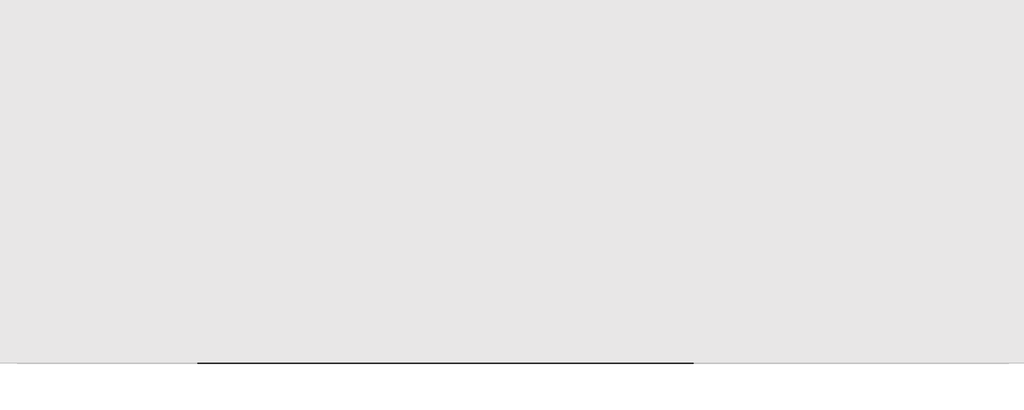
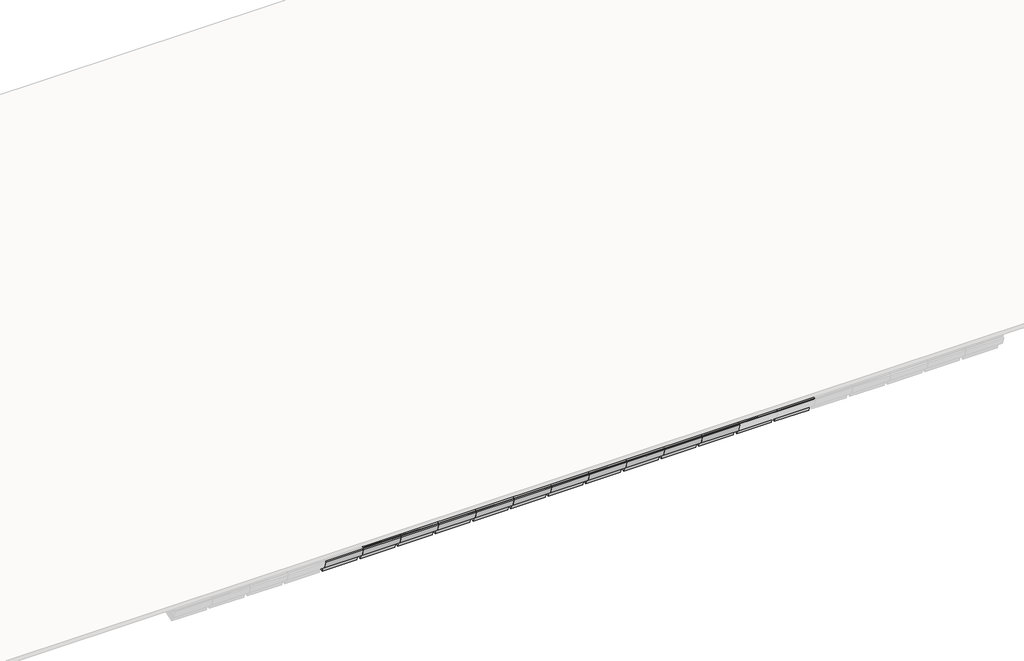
# One storey, part 24 of 57: 75 members, 49 plates.
"""IFC4 building model written with IfcOpenShell, lengths in millimetres."""

from ifc_helpers import new_model, si_unit, origin, place, context, project, spatial, transform, mapped, element, save
from components import rectangular_mullion_59984080, rectangular_mullion_e3e5c75d, rectangular_mullion_883ae41b, rectangular_mullion_caibro_e4384bba, empty_system_panel_vazio_178faf58, empty_system_panel_vazio_2c78850d

model = new_model("IFC4")

# Units and contexts
model_context = context("Model", 3, world=origin())
ifc_project = project(units=[si_unit("LENGTHUNIT", "METRE", prefix="MILLI")], contexts=[model_context])

# Site, building, storey
site = spatial("IfcSite", under=ifc_project)
building = spatial("IfcBuilding", under=site)
storey = spatial("IfcBuildingStorey", under=building, Name="Nível 2", Elevation=4100.0)

# Members
placement = place(None, origin())
rectangular_mullion_shape = rectangular_mullion_59984080(model_context)
element("IfcMember", 1, ObjectType="Rectangular Mullion : Ripa", at=placement, inside=storey, context=model_context, shape_type="MappedRepresentation", body=[
    mapped(rectangular_mullion_shape, transform((21479.4876142, 7422.2287521, 3376.7178042), x_axis=(0.0, 0.9578262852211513, 0.2873478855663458), y_axis=(0.0, 0.2873478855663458, -0.9578262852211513), z_axis=(-1.0, 0.0, 0.0))),
])
element("IfcMember", 2, ObjectType="Rectangular Mullion : Ripa", at=placement, inside=storey, context=model_context, shape_type="MappedRepresentation", body=[
    mapped(rectangular_mullion_shape, transform((22076.5423706, 7422.2287521, 3376.7178042), x_axis=(0.0, 0.9578262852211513, 0.2873478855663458), y_axis=(0.0, 0.2873478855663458, -0.9578262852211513), z_axis=(-1.0, 0.0, 0.0))),
])
element("IfcMember", 3, ObjectType="Rectangular Mullion : Ripa", at=placement, inside=storey, context=model_context, shape_type="MappedRepresentation", body=[
    mapped(rectangular_mullion_shape, transform((22673.597127, 7422.2287521, 3376.7178042), x_axis=(0.0, 0.9578262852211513, 0.2873478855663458), y_axis=(0.0, 0.2873478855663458, -0.9578262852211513), z_axis=(-1.0, 0.0, 0.0))),
])
element("IfcMember", 4, ObjectType="Rectangular Mullion : Ripa", at=placement, inside=storey, context=model_context, shape_type="MappedRepresentation", body=[
    mapped(rectangular_mullion_shape, transform((23270.6518835, 7422.2287521, 3376.7178042), x_axis=(0.0, 0.9578262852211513, 0.2873478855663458), y_axis=(0.0, 0.2873478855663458, -0.9578262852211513), z_axis=(-1.0, 0.0, 0.0))),
])
element("IfcMember", 5, ObjectType="Rectangular Mullion : Ripa", at=placement, inside=storey, context=model_context, shape_type="MappedRepresentation", body=[
    mapped(rectangular_mullion_shape, transform((23867.7066399, 7422.2287521, 3376.7178042), x_axis=(0.0, 0.9578262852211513, 0.2873478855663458), y_axis=(0.0, 0.2873478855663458, -0.9578262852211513), z_axis=(-1.0, 0.0, 0.0))),
])
element("IfcMember", 6, ObjectType="Rectangular Mullion : Ripa", at=placement, inside=storey, context=model_context, shape_type="MappedRepresentation", body=[
    mapped(rectangular_mullion_shape, transform((24464.7613963, 7422.2287521, 3376.7178042), x_axis=(0.0, 0.9578262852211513, 0.2873478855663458), y_axis=(0.0, 0.2873478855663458, -0.9578262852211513), z_axis=(-1.0, 0.0, 0.0))),
])
element("IfcMember", 7, ObjectType="Rectangular Mullion : Ripa", at=placement, inside=storey, context=model_context, shape_type="MappedRepresentation", body=[
    mapped(rectangular_mullion_shape, transform((25061.8161527, 7422.2287521, 3376.7178042), x_axis=(0.0, 0.9578262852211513, 0.2873478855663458), y_axis=(0.0, 0.2873478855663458, -0.9578262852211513), z_axis=(-1.0, 0.0, 0.0))),
])
element("IfcMember", 8, ObjectType="Rectangular Mullion : Ripa", at=placement, inside=storey, context=model_context, shape_type="MappedRepresentation", body=[
    mapped(rectangular_mullion_shape, transform((25658.8709092, 7422.2287521, 3376.7178042), x_axis=(0.0, 0.9578262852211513, 0.2873478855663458), y_axis=(0.0, 0.2873478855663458, -0.9578262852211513), z_axis=(-1.0, 0.0, 0.0))),
])
element("IfcMember", 9, ObjectType="Rectangular Mullion : Ripa", at=placement, inside=storey, context=model_context, shape_type="MappedRepresentation", body=[
    mapped(rectangular_mullion_shape, transform((26255.9256656, 7422.2287521, 3376.7178042), x_axis=(0.0, 0.9578262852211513, 0.2873478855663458), y_axis=(0.0, 0.2873478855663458, -0.9578262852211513), z_axis=(-1.0, 0.0, 0.0))),
])
element("IfcMember", 10, ObjectType="Rectangular Mullion : Ripa", at=placement, inside=storey, context=model_context, shape_type="MappedRepresentation", body=[
    mapped(rectangular_mullion_shape, transform((26852.980422, 7422.2287521, 3376.7178042), x_axis=(0.0, 0.9578262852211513, 0.2873478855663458), y_axis=(0.0, 0.2873478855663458, -0.9578262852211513), z_axis=(-1.0, 0.0, 0.0))),
])
element("IfcMember", 11, ObjectType="Rectangular Mullion : Ripa", at=placement, inside=storey, context=model_context, shape_type="MappedRepresentation", body=[
    mapped(rectangular_mullion_shape, transform((27450.0351784, 7422.2287521, 3376.7178042), x_axis=(0.0, 0.9578262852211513, 0.2873478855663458), y_axis=(0.0, 0.2873478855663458, -0.9578262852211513), z_axis=(-1.0, 0.0, 0.0))),
])
element("IfcMember", 12, ObjectType="Rectangular Mullion : Ripa", at=placement, inside=storey, context=model_context, shape_type="MappedRepresentation", body=[
    mapped(rectangular_mullion_shape, transform((28047.0899349, 7422.2287521, 3376.7178042), x_axis=(0.0, 0.9578262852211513, 0.2873478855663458), y_axis=(0.0, 0.2873478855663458, -0.9578262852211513), z_axis=(-1.0, 0.0, 0.0))),
])
element("IfcMember", 13, ObjectType="Rectangular Mullion : Ripa", at=placement, inside=storey, context=model_context, shape_type="MappedRepresentation", body=[
    mapped(rectangular_mullion_shape, transform((28644.1446913, 7422.2287521, 3376.7178042), x_axis=(0.0, 0.9578262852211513, 0.2873478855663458), y_axis=(0.0, 0.2873478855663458, -0.9578262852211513), z_axis=(-1.0, 0.0, 0.0))),
])
element("IfcMember", 14, ObjectType="Rectangular Mullion : Ripa", at=placement, inside=storey, context=model_context, shape_type="MappedRepresentation", body=[
    mapped(rectangular_mullion_shape, transform((21479.4876142, 7792.4060108, 3487.7709818), x_axis=(0.0, 0.9578262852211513, 0.2873478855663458), y_axis=(0.0, 0.2873478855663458, -0.9578262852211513), z_axis=(-1.0, 0.0, 0.0))),
])
element("IfcMember", 15, ObjectType="Rectangular Mullion : Ripa", at=placement, inside=storey, context=model_context, shape_type="MappedRepresentation", body=[
    mapped(rectangular_mullion_shape, transform((22076.5423706, 7792.4060108, 3487.7709818), x_axis=(0.0, 0.9578262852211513, 0.2873478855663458), y_axis=(0.0, 0.2873478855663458, -0.9578262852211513), z_axis=(-1.0, 0.0, 0.0))),
])
element("IfcMember", 16, ObjectType="Rectangular Mullion : Ripa", at=placement, inside=storey, context=model_context, shape_type="MappedRepresentation", body=[
    mapped(rectangular_mullion_shape, transform((22673.597127, 7792.4060108, 3487.7709818), x_axis=(0.0, 0.9578262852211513, 0.2873478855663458), y_axis=(0.0, 0.2873478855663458, -0.9578262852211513), z_axis=(-1.0, 0.0, 0.0))),
])
element("IfcMember", 17, ObjectType="Rectangular Mullion : Ripa", at=placement, inside=storey, context=model_context, shape_type="MappedRepresentation", body=[
    mapped(rectangular_mullion_shape, transform((23270.6518835, 7792.4060108, 3487.7709818), x_axis=(0.0, 0.9578262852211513, 0.2873478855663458), y_axis=(0.0, 0.2873478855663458, -0.9578262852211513), z_axis=(-1.0, 0.0, 0.0))),
])
element("IfcMember", 18, ObjectType="Rectangular Mullion : Ripa", at=placement, inside=storey, context=model_context, shape_type="MappedRepresentation", body=[
    mapped(rectangular_mullion_shape, transform((23867.7066399, 7792.4060108, 3487.7709818), x_axis=(0.0, 0.9578262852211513, 0.2873478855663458), y_axis=(0.0, 0.2873478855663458, -0.9578262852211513), z_axis=(-1.0, 0.0, 0.0))),
])
element("IfcMember", 19, ObjectType="Rectangular Mullion : Ripa", at=placement, inside=storey, context=model_context, shape_type="MappedRepresentation", body=[
    mapped(rectangular_mullion_shape, transform((24464.7613963, 7792.4060108, 3487.7709818), x_axis=(0.0, 0.9578262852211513, 0.2873478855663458), y_axis=(0.0, 0.2873478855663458, -0.9578262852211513), z_axis=(-1.0, 0.0, 0.0))),
])
element("IfcMember", 20, ObjectType="Rectangular Mullion : Ripa", at=placement, inside=storey, context=model_context, shape_type="MappedRepresentation", body=[
    mapped(rectangular_mullion_shape, transform((25061.8161527, 7792.4060108, 3487.7709818), x_axis=(0.0, 0.9578262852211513, 0.2873478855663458), y_axis=(0.0, 0.2873478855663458, -0.9578262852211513), z_axis=(-1.0, 0.0, 0.0))),
])
element("IfcMember", 21, ObjectType="Rectangular Mullion : Ripa", at=placement, inside=storey, context=model_context, shape_type="MappedRepresentation", body=[
    mapped(rectangular_mullion_shape, transform((25658.8709092, 7792.4060108, 3487.7709818), x_axis=(0.0, 0.9578262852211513, 0.2873478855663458), y_axis=(0.0, 0.2873478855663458, -0.9578262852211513), z_axis=(-1.0, 0.0, 0.0))),
])
element("IfcMember", 22, ObjectType="Rectangular Mullion : Ripa", at=placement, inside=storey, context=model_context, shape_type="MappedRepresentation", body=[
    mapped(rectangular_mullion_shape, transform((26255.9256656, 7792.4060108, 3487.7709818), x_axis=(0.0, 0.9578262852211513, 0.2873478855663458), y_axis=(0.0, 0.2873478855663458, -0.9578262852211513), z_axis=(-1.0, 0.0, 0.0))),
])
element("IfcMember", 23, ObjectType="Rectangular Mullion : Ripa", at=placement, inside=storey, context=model_context, shape_type="MappedRepresentation", body=[
    mapped(rectangular_mullion_shape, transform((26852.980422, 7792.4060108, 3487.7709818), x_axis=(0.0, 0.9578262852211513, 0.2873478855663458), y_axis=(0.0, 0.2873478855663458, -0.9578262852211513), z_axis=(-1.0, 0.0, 0.0))),
])
element("IfcMember", 24, ObjectType="Rectangular Mullion : Ripa", at=placement, inside=storey, context=model_context, shape_type="MappedRepresentation", body=[
    mapped(rectangular_mullion_shape, transform((27450.0351784, 7792.4060108, 3487.7709818), x_axis=(0.0, 0.9578262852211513, 0.2873478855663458), y_axis=(0.0, 0.2873478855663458, -0.9578262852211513), z_axis=(-1.0, 0.0, 0.0))),
])
element("IfcMember", 25, ObjectType="Rectangular Mullion : Ripa", at=placement, inside=storey, context=model_context, shape_type="MappedRepresentation", body=[
    mapped(rectangular_mullion_shape, transform((28047.0899349, 7792.4060108, 3487.7709818), x_axis=(0.0, 0.9578262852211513, 0.2873478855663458), y_axis=(0.0, 0.2873478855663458, -0.9578262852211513), z_axis=(-1.0, 0.0, 0.0))),
])
element("IfcMember", 26, ObjectType="Rectangular Mullion : Ripa", at=placement, inside=storey, context=model_context, shape_type="MappedRepresentation", body=[
    mapped(rectangular_mullion_shape, transform((28644.1446913, 7792.4060108, 3487.7709818), x_axis=(0.0, 0.9578262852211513, 0.2873478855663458), y_axis=(0.0, 0.2873478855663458, -0.9578262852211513), z_axis=(-1.0, 0.0, 0.0))),
])
rectangular_mullion_2_shape = rectangular_mullion_e3e5c75d(model_context)
element("IfcMember", 27, ObjectType="Rectangular Mullion : Ripa", at=placement, inside=storey, context=model_context, shape_type="MappedRepresentation", body=[
    mapped(rectangular_mullion_2_shape, transform((22051.5423706, 7004.1601792, 3251.2972323), x_axis=(0.0, -0.9578262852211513, -0.2873478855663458), y_axis=(0.0, 0.2873478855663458, -0.9578262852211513), z_axis=(1.0, 0.0, 0.0))),
])
element("IfcMember", 28, ObjectType="Rectangular Mullion : Ripa", at=placement, inside=storey, context=model_context, shape_type="MappedRepresentation", body=[
    mapped(rectangular_mullion_2_shape, transform((22648.597127, 7004.1601792, 3251.2972323), x_axis=(0.0, -0.9578262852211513, -0.2873478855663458), y_axis=(0.0, 0.2873478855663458, -0.9578262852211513), z_axis=(1.0, 0.0, 0.0))),
])
element("IfcMember", 29, ObjectType="Rectangular Mullion : Ripa", at=placement, inside=storey, context=model_context, shape_type="MappedRepresentation", body=[
    mapped(rectangular_mullion_2_shape, transform((23245.6518835, 7004.1601792, 3251.2972323), x_axis=(0.0, -0.9578262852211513, -0.2873478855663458), y_axis=(0.0, 0.2873478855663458, -0.9578262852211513), z_axis=(1.0, 0.0, 0.0))),
])
element("IfcMember", 30, ObjectType="Rectangular Mullion : Ripa", at=placement, inside=storey, context=model_context, shape_type="MappedRepresentation", body=[
    mapped(rectangular_mullion_2_shape, transform((23842.7066399, 7004.1601792, 3251.2972323), x_axis=(0.0, -0.9578262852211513, -0.2873478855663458), y_axis=(0.0, 0.2873478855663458, -0.9578262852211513), z_axis=(1.0, 0.0, 0.0))),
])
element("IfcMember", 31, ObjectType="Rectangular Mullion : Ripa", at=placement, inside=storey, context=model_context, shape_type="MappedRepresentation", body=[
    mapped(rectangular_mullion_2_shape, transform((24439.7613963, 7004.1601792, 3251.2972323), x_axis=(0.0, -0.9578262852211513, -0.2873478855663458), y_axis=(0.0, 0.2873478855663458, -0.9578262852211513), z_axis=(1.0, 0.0, 0.0))),
])
element("IfcMember", 32, ObjectType="Rectangular Mullion : Ripa", at=placement, inside=storey, context=model_context, shape_type="MappedRepresentation", body=[
    mapped(rectangular_mullion_2_shape, transform((25036.8161527, 7004.1601792, 3251.2972323), x_axis=(0.0, -0.9578262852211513, -0.2873478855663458), y_axis=(0.0, 0.2873478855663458, -0.9578262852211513), z_axis=(1.0, 0.0, 0.0))),
])
element("IfcMember", 33, ObjectType="Rectangular Mullion : Ripa", at=placement, inside=storey, context=model_context, shape_type="MappedRepresentation", body=[
    mapped(rectangular_mullion_2_shape, transform((25633.8709092, 7004.1601792, 3251.2972323), x_axis=(0.0, -0.9578262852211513, -0.2873478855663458), y_axis=(0.0, 0.2873478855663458, -0.9578262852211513), z_axis=(1.0, 0.0, 0.0))),
])
element("IfcMember", 34, ObjectType="Rectangular Mullion : Ripa", at=placement, inside=storey, context=model_context, shape_type="MappedRepresentation", body=[
    mapped(rectangular_mullion_2_shape, transform((26230.9256656, 7004.1601792, 3251.2972323), x_axis=(0.0, -0.9578262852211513, -0.2873478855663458), y_axis=(0.0, 0.2873478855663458, -0.9578262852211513), z_axis=(1.0, 0.0, 0.0))),
])
element("IfcMember", 35, ObjectType="Rectangular Mullion : Ripa", at=placement, inside=storey, context=model_context, shape_type="MappedRepresentation", body=[
    mapped(rectangular_mullion_2_shape, transform((26827.980422, 7004.1601792, 3251.2972323), x_axis=(0.0, -0.9578262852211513, -0.2873478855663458), y_axis=(0.0, 0.2873478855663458, -0.9578262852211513), z_axis=(1.0, 0.0, 0.0))),
])
element("IfcMember", 36, ObjectType="Rectangular Mullion : Ripa", at=placement, inside=storey, context=model_context, shape_type="MappedRepresentation", body=[
    mapped(rectangular_mullion_2_shape, transform((27425.0351784, 7004.1601792, 3251.2972323), x_axis=(0.0, -0.9578262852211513, -0.2873478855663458), y_axis=(0.0, 0.2873478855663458, -0.9578262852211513), z_axis=(1.0, 0.0, 0.0))),
])
element("IfcMember", 37, ObjectType="Rectangular Mullion : Ripa", at=placement, inside=storey, context=model_context, shape_type="MappedRepresentation", body=[
    mapped(rectangular_mullion_2_shape, transform((28022.0899349, 7004.1601792, 3251.2972323), x_axis=(0.0, -0.9578262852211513, -0.2873478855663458), y_axis=(0.0, 0.2873478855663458, -0.9578262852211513), z_axis=(1.0, 0.0, 0.0))),
])
element("IfcMember", 38, ObjectType="Rectangular Mullion : Ripa", at=placement, inside=storey, context=model_context, shape_type="MappedRepresentation", body=[
    mapped(rectangular_mullion_2_shape, transform((28619.1446913, 7004.1601792, 3251.2972323), x_axis=(0.0, -0.9578262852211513, -0.2873478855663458), y_axis=(0.0, 0.2873478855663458, -0.9578262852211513), z_axis=(1.0, 0.0, 0.0))),
])
rectangular_mullion_3_shape = rectangular_mullion_883ae41b(model_context)
element("IfcMember", 39, ObjectType="Rectangular Mullion : Terça", at=placement, inside=storey, context=model_context, shape_type="MappedRepresentation", body=[
    mapped(rectangular_mullion_3_shape, transform((21454.4876142, 7004.1601792, 3188.6553932), x_axis=(0.0, -0.9578262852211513, -0.2873478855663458), y_axis=(0.0, 0.2873478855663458, -0.9578262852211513), z_axis=(1.0, 0.0, 0.0))),
])
element("IfcMember", 40, ObjectType="Rectangular Mullion : Terça", at=placement, inside=storey, context=model_context, shape_type="MappedRepresentation", body=[
    mapped(rectangular_mullion_3_shape, transform((22051.5423706, 7004.1601792, 3188.6553932), x_axis=(0.0, -0.9578262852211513, -0.2873478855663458), y_axis=(0.0, 0.2873478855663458, -0.9578262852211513), z_axis=(1.0, 0.0, 0.0))),
])
element("IfcMember", 41, ObjectType="Rectangular Mullion : Terça", at=placement, inside=storey, context=model_context, shape_type="MappedRepresentation", body=[
    mapped(rectangular_mullion_3_shape, transform((22648.597127, 7004.1601792, 3188.6553932), x_axis=(0.0, -0.9578262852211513, -0.2873478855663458), y_axis=(0.0, 0.2873478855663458, -0.9578262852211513), z_axis=(1.0, 0.0, 0.0))),
])
element("IfcMember", 42, ObjectType="Rectangular Mullion : Terça", at=placement, inside=storey, context=model_context, shape_type="MappedRepresentation", body=[
    mapped(rectangular_mullion_3_shape, transform((23245.6518835, 7004.1601792, 3188.6553932), x_axis=(0.0, -0.9578262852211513, -0.2873478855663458), y_axis=(0.0, 0.2873478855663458, -0.9578262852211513), z_axis=(1.0, 0.0, 0.0))),
])
element("IfcMember", 43, ObjectType="Rectangular Mullion : Terça", at=placement, inside=storey, context=model_context, shape_type="MappedRepresentation", body=[
    mapped(rectangular_mullion_3_shape, transform((23842.7066399, 7004.1601792, 3188.6553932), x_axis=(0.0, -0.9578262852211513, -0.2873478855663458), y_axis=(0.0, 0.2873478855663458, -0.9578262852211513), z_axis=(1.0, 0.0, 0.0))),
])
element("IfcMember", 44, ObjectType="Rectangular Mullion : Terça", at=placement, inside=storey, context=model_context, shape_type="MappedRepresentation", body=[
    mapped(rectangular_mullion_3_shape, transform((24439.7613963, 7004.1601792, 3188.6553932), x_axis=(0.0, -0.9578262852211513, -0.2873478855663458), y_axis=(0.0, 0.2873478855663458, -0.9578262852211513), z_axis=(1.0, 0.0, 0.0))),
])
element("IfcMember", 45, ObjectType="Rectangular Mullion : Terça", at=placement, inside=storey, context=model_context, shape_type="MappedRepresentation", body=[
    mapped(rectangular_mullion_3_shape, transform((25036.8161527, 7004.1601792, 3188.6553932), x_axis=(0.0, -0.9578262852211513, -0.2873478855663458), y_axis=(0.0, 0.2873478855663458, -0.9578262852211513), z_axis=(1.0, 0.0, 0.0))),
])
element("IfcMember", 46, ObjectType="Rectangular Mullion : Terça", at=placement, inside=storey, context=model_context, shape_type="MappedRepresentation", body=[
    mapped(rectangular_mullion_3_shape, transform((25633.8709092, 7004.1601792, 3188.6553932), x_axis=(0.0, -0.9578262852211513, -0.2873478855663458), y_axis=(0.0, 0.2873478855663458, -0.9578262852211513), z_axis=(1.0, 0.0, 0.0))),
])
element("IfcMember", 47, ObjectType="Rectangular Mullion : Terça", at=placement, inside=storey, context=model_context, shape_type="MappedRepresentation", body=[
    mapped(rectangular_mullion_3_shape, transform((26230.9256656, 7004.1601792, 3188.6553932), x_axis=(0.0, -0.9578262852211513, -0.2873478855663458), y_axis=(0.0, 0.2873478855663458, -0.9578262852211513), z_axis=(1.0, 0.0, 0.0))),
])
element("IfcMember", 48, ObjectType="Rectangular Mullion : Terça", at=placement, inside=storey, context=model_context, shape_type="MappedRepresentation", body=[
    mapped(rectangular_mullion_3_shape, transform((26827.980422, 7004.1601792, 3188.6553932), x_axis=(0.0, -0.9578262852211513, -0.2873478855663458), y_axis=(0.0, 0.2873478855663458, -0.9578262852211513), z_axis=(1.0, 0.0, 0.0))),
])
element("IfcMember", 49, ObjectType="Rectangular Mullion : Terça", at=placement, inside=storey, context=model_context, shape_type="MappedRepresentation", body=[
    mapped(rectangular_mullion_3_shape, transform((27425.0351784, 7004.1601792, 3188.6553932), x_axis=(0.0, -0.9578262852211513, -0.2873478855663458), y_axis=(0.0, 0.2873478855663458, -0.9578262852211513), z_axis=(1.0, 0.0, 0.0))),
])
rectangular_mullion_caibro_shape = rectangular_mullion_caibro_e4384bba(model_context)
element("IfcMember", 50, ObjectType="Rectangular Mullion : Caibro", at=placement, inside=storey, context=model_context, shape_type="MappedRepresentation", body=[
    mapped(rectangular_mullion_caibro_shape, transform((21454.4876142, 7422.2287521, 3376.7178042), x_axis=(1.0, 0.0, 0.0), y_axis=(0.0, 0.2873478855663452, -0.9578262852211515), z_axis=(0.0, 0.9578262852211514, 0.28734788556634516))),
])
element("IfcMember", 51, ObjectType="Rectangular Mullion : Caibro", at=placement, inside=storey, context=model_context, shape_type="MappedRepresentation", body=[
    mapped(rectangular_mullion_caibro_shape, transform((22051.5423706, 7422.2287521, 3376.7178042), x_axis=(1.0, 0.0, 0.0), y_axis=(0.0, 0.2873478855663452, -0.9578262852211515), z_axis=(0.0, 0.9578262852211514, 0.28734788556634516))),
])
element("IfcMember", 52, ObjectType="Rectangular Mullion : Caibro", at=placement, inside=storey, context=model_context, shape_type="MappedRepresentation", body=[
    mapped(rectangular_mullion_caibro_shape, transform((22648.597127, 7422.2287521, 3376.7178042), x_axis=(1.0, 0.0, 0.0), y_axis=(0.0, 0.2873478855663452, -0.9578262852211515), z_axis=(0.0, 0.9578262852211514, 0.28734788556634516))),
])
element("IfcMember", 53, ObjectType="Rectangular Mullion : Caibro", at=placement, inside=storey, context=model_context, shape_type="MappedRepresentation", body=[
    mapped(rectangular_mullion_caibro_shape, transform((23245.6518835, 7422.2287521, 3376.7178042), x_axis=(1.0, 0.0, 0.0), y_axis=(0.0, 0.2873478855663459, -0.9578262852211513), z_axis=(0.0, 0.9578262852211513, 0.2873478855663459))),
])
element("IfcMember", 54, ObjectType="Rectangular Mullion : Caibro", at=placement, inside=storey, context=model_context, shape_type="MappedRepresentation", body=[
    mapped(rectangular_mullion_caibro_shape, transform((23842.7066399, 7422.2287521, 3376.7178042), x_axis=(1.0, 0.0, 0.0), y_axis=(0.0, 0.2873478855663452, -0.9578262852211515), z_axis=(0.0, 0.9578262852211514, 0.28734788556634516))),
])
element("IfcMember", 55, ObjectType="Rectangular Mullion : Caibro", at=placement, inside=storey, context=model_context, shape_type="MappedRepresentation", body=[
    mapped(rectangular_mullion_caibro_shape, transform((24439.7613963, 7422.2287521, 3376.7178042), x_axis=(1.0, 0.0, 0.0), y_axis=(0.0, 0.2873478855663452, -0.9578262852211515), z_axis=(0.0, 0.9578262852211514, 0.28734788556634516))),
])
element("IfcMember", 56, ObjectType="Rectangular Mullion : Caibro", at=placement, inside=storey, context=model_context, shape_type="MappedRepresentation", body=[
    mapped(rectangular_mullion_caibro_shape, transform((25036.8161527, 7422.2287521, 3376.7178042), x_axis=(1.0, 0.0, 0.0), y_axis=(0.0, 0.2873478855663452, -0.9578262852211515), z_axis=(0.0, 0.9578262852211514, 0.28734788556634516))),
])
element("IfcMember", 57, ObjectType="Rectangular Mullion : Caibro", at=placement, inside=storey, context=model_context, shape_type="MappedRepresentation", body=[
    mapped(rectangular_mullion_caibro_shape, transform((25633.8709092, 7422.2287521, 3376.7178042), x_axis=(1.0, 0.0, 0.0), y_axis=(0.0, 0.2873478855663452, -0.9578262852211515), z_axis=(0.0, 0.9578262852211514, 0.28734788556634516))),
])
element("IfcMember", 58, ObjectType="Rectangular Mullion : Caibro", at=placement, inside=storey, context=model_context, shape_type="MappedRepresentation", body=[
    mapped(rectangular_mullion_caibro_shape, transform((26230.9256656, 7422.2287521, 3376.7178042), x_axis=(1.0, 0.0, 0.0), y_axis=(0.0, 0.2873478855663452, -0.9578262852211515), z_axis=(0.0, 0.9578262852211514, 0.28734788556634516))),
])
element("IfcMember", 59, ObjectType="Rectangular Mullion : Caibro", at=placement, inside=storey, context=model_context, shape_type="MappedRepresentation", body=[
    mapped(rectangular_mullion_caibro_shape, transform((26827.980422, 7422.2287521, 3376.7178042), x_axis=(1.0, 0.0, 0.0), y_axis=(0.0, 0.2873478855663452, -0.9578262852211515), z_axis=(0.0, 0.9578262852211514, 0.28734788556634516))),
])
element("IfcMember", 60, ObjectType="Rectangular Mullion : Caibro", at=placement, inside=storey, context=model_context, shape_type="MappedRepresentation", body=[
    mapped(rectangular_mullion_caibro_shape, transform((27425.0351784, 7422.2287521, 3376.7178042), x_axis=(1.0, 0.0, 0.0), y_axis=(0.0, 0.2873478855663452, -0.9578262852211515), z_axis=(0.0, 0.9578262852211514, 0.28734788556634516))),
])
element("IfcMember", 61, ObjectType="Rectangular Mullion : Caibro", at=placement, inside=storey, context=model_context, shape_type="MappedRepresentation", body=[
    mapped(rectangular_mullion_caibro_shape, transform((28022.0899349, 7422.2287521, 3376.7178042), x_axis=(1.0, 0.0, 0.0), y_axis=(0.0, 0.2873478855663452, -0.9578262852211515), z_axis=(0.0, 0.9578262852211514, 0.28734788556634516))),
])
element("IfcMember", 62, ObjectType="Rectangular Mullion : Caibro", at=placement, inside=storey, context=model_context, shape_type="MappedRepresentation", body=[
    mapped(rectangular_mullion_caibro_shape, transform((28619.1446913, 7422.2287521, 3376.7178042), x_axis=(1.0, 0.0, 0.0), y_axis=(0.0, 0.2873478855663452, -0.9578262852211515), z_axis=(0.0, 0.9578262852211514, 0.28734788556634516))),
])
element("IfcMember", 63, ObjectType="Rectangular Mullion : Caibro", at=placement, inside=storey, context=model_context, shape_type="MappedRepresentation", body=[
    mapped(rectangular_mullion_caibro_shape, transform((21454.4876142, 7792.4060108, 3487.7709818), x_axis=(1.0, 0.0, 0.0), y_axis=(0.0, 0.2873478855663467, -0.9578262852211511), z_axis=(0.0, 0.9578262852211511, 0.2873478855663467))),
])
element("IfcMember", 64, ObjectType="Rectangular Mullion : Caibro", at=placement, inside=storey, context=model_context, shape_type="MappedRepresentation", body=[
    mapped(rectangular_mullion_caibro_shape, transform((22051.5423706, 7792.4060108, 3487.7709818), x_axis=(1.0, 0.0, 0.0), y_axis=(0.0, 0.2873478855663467, -0.9578262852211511), z_axis=(0.0, 0.9578262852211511, 0.2873478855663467))),
])
element("IfcMember", 65, ObjectType="Rectangular Mullion : Caibro", at=placement, inside=storey, context=model_context, shape_type="MappedRepresentation", body=[
    mapped(rectangular_mullion_caibro_shape, transform((22648.597127, 7792.4060108, 3487.7709818), x_axis=(1.0, 0.0, 0.0), y_axis=(0.0, 0.2873478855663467, -0.9578262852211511), z_axis=(0.0, 0.9578262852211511, 0.2873478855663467))),
])
element("IfcMember", 66, ObjectType="Rectangular Mullion : Caibro", at=placement, inside=storey, context=model_context, shape_type="MappedRepresentation", body=[
    mapped(rectangular_mullion_caibro_shape, transform((23245.6518835, 7792.4060108, 3487.7709818), x_axis=(1.0, 0.0, 0.0), y_axis=(0.0, 0.2873478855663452, -0.9578262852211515), z_axis=(0.0, 0.9578262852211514, 0.28734788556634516))),
])
element("IfcMember", 67, ObjectType="Rectangular Mullion : Caibro", at=placement, inside=storey, context=model_context, shape_type="MappedRepresentation", body=[
    mapped(rectangular_mullion_caibro_shape, transform((23842.7066399, 7792.4060108, 3487.7709818), x_axis=(1.0, 0.0, 0.0), y_axis=(0.0, 0.2873478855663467, -0.9578262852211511), z_axis=(0.0, 0.9578262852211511, 0.2873478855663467))),
])
element("IfcMember", 68, ObjectType="Rectangular Mullion : Caibro", at=placement, inside=storey, context=model_context, shape_type="MappedRepresentation", body=[
    mapped(rectangular_mullion_caibro_shape, transform((24439.7613963, 7792.4060108, 3487.7709818), x_axis=(1.0, 0.0, 0.0), y_axis=(0.0, 0.2873478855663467, -0.9578262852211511), z_axis=(0.0, 0.9578262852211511, 0.2873478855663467))),
])
element("IfcMember", 69, ObjectType="Rectangular Mullion : Caibro", at=placement, inside=storey, context=model_context, shape_type="MappedRepresentation", body=[
    mapped(rectangular_mullion_caibro_shape, transform((25036.8161527, 7792.4060108, 3487.7709818), x_axis=(1.0, 0.0, 0.0), y_axis=(0.0, 0.2873478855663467, -0.9578262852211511), z_axis=(0.0, 0.9578262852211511, 0.2873478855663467))),
])
element("IfcMember", 70, ObjectType="Rectangular Mullion : Caibro", at=placement, inside=storey, context=model_context, shape_type="MappedRepresentation", body=[
    mapped(rectangular_mullion_caibro_shape, transform((25633.8709092, 7792.4060108, 3487.7709818), x_axis=(1.0, 0.0, 0.0), y_axis=(0.0, 0.2873478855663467, -0.9578262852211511), z_axis=(0.0, 0.9578262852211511, 0.2873478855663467))),
])
element("IfcMember", 71, ObjectType="Rectangular Mullion : Caibro", at=placement, inside=storey, context=model_context, shape_type="MappedRepresentation", body=[
    mapped(rectangular_mullion_caibro_shape, transform((26230.9256656, 7792.4060108, 3487.7709818), x_axis=(1.0, 0.0, 0.0), y_axis=(0.0, 0.2873478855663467, -0.9578262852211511), z_axis=(0.0, 0.9578262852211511, 0.2873478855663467))),
])
element("IfcMember", 72, ObjectType="Rectangular Mullion : Caibro", at=placement, inside=storey, context=model_context, shape_type="MappedRepresentation", body=[
    mapped(rectangular_mullion_caibro_shape, transform((26827.980422, 7792.4060108, 3487.7709818), x_axis=(1.0, 0.0, 0.0), y_axis=(0.0, 0.2873478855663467, -0.9578262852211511), z_axis=(0.0, 0.9578262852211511, 0.2873478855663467))),
])
element("IfcMember", 73, ObjectType="Rectangular Mullion : Caibro", at=placement, inside=storey, context=model_context, shape_type="MappedRepresentation", body=[
    mapped(rectangular_mullion_caibro_shape, transform((27425.0351784, 7792.4060108, 3487.7709818), x_axis=(1.0, 0.0, 0.0), y_axis=(0.0, 0.2873478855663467, -0.9578262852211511), z_axis=(0.0, 0.9578262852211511, 0.2873478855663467))),
])
element("IfcMember", 74, ObjectType="Rectangular Mullion : Caibro", at=placement, inside=storey, context=model_context, shape_type="MappedRepresentation", body=[
    mapped(rectangular_mullion_caibro_shape, transform((28022.0899349, 7792.4060108, 3487.7709818), x_axis=(1.0, 0.0, 0.0), y_axis=(0.0, 0.2873478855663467, -0.9578262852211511), z_axis=(0.0, 0.9578262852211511, 0.2873478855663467))),
])
element("IfcMember", 75, ObjectType="Rectangular Mullion : Caibro", at=placement, inside=storey, context=model_context, shape_type="MappedRepresentation", body=[
    mapped(rectangular_mullion_caibro_shape, transform((28619.1446913, 7792.4060108, 3487.7709818), x_axis=(1.0, 0.0, 0.0), y_axis=(0.0, 0.2873478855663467, -0.9578262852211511), z_axis=(0.0, 0.9578262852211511, 0.2873478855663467))),
])

# Plates
empty_system_panel_vazio_shape = empty_system_panel_vazio_178faf58(model_context)
element("IfcPlate", 76, ObjectType="Empty System Panel : Vazio", at=placement, inside=storey, context=model_context, shape_type="MappedRepresentation", body=[
    mapped(empty_system_panel_vazio_shape, transform((22350.0697488, 7052.0514934, 3265.6646266), x_axis=(1.0, 0.0, 0.0), y_axis=(0.0, 0.2873478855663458, -0.9578262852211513), z_axis=(0.0, 0.9578262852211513, 0.2873478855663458))),
])
element("IfcPlate", 77, ObjectType="Empty System Panel : Vazio", at=placement, inside=storey, context=model_context, shape_type="MappedRepresentation", body=[
    mapped(empty_system_panel_vazio_shape, transform((22947.1245052, 7052.0514934, 3265.6646266), x_axis=(1.0, 0.0, 0.0), y_axis=(0.0, 0.2873478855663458, -0.9578262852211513), z_axis=(0.0, 0.9578262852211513, 0.2873478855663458))),
])
element("IfcPlate", 78, ObjectType="Empty System Panel : Vazio", at=placement, inside=storey, context=model_context, shape_type="MappedRepresentation", body=[
    mapped(empty_system_panel_vazio_shape, transform((23544.1792617, 7052.0514934, 3265.6646266), x_axis=(1.0, 0.0, 0.0), y_axis=(0.0, 0.2873478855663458, -0.9578262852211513), z_axis=(0.0, 0.9578262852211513, 0.2873478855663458))),
])
element("IfcPlate", 79, ObjectType="Empty System Panel : Vazio", at=placement, inside=storey, context=model_context, shape_type="MappedRepresentation", body=[
    mapped(empty_system_panel_vazio_shape, transform((24141.2340181, 7052.0514934, 3265.6646266), x_axis=(1.0, 0.0, 0.0), y_axis=(0.0, 0.2873478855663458, -0.9578262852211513), z_axis=(0.0, 0.9578262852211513, 0.2873478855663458))),
])
element("IfcPlate", 80, ObjectType="Empty System Panel : Vazio", at=placement, inside=storey, context=model_context, shape_type="MappedRepresentation", body=[
    mapped(empty_system_panel_vazio_shape, transform((24738.2887745, 7052.0514934, 3265.6646266), x_axis=(1.0, 0.0, 0.0), y_axis=(0.0, 0.2873478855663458, -0.9578262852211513), z_axis=(0.0, 0.9578262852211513, 0.2873478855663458))),
])
element("IfcPlate", 81, ObjectType="Empty System Panel : Vazio", at=placement, inside=storey, context=model_context, shape_type="MappedRepresentation", body=[
    mapped(empty_system_panel_vazio_shape, transform((25335.3435309, 7052.0514934, 3265.6646266), x_axis=(1.0, 0.0, 0.0), y_axis=(0.0, 0.2873478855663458, -0.9578262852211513), z_axis=(0.0, 0.9578262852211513, 0.2873478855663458))),
])
element("IfcPlate", 82, ObjectType="Empty System Panel : Vazio", at=placement, inside=storey, context=model_context, shape_type="MappedRepresentation", body=[
    mapped(empty_system_panel_vazio_shape, transform((25932.3982874, 7052.0514934, 3265.6646266), x_axis=(1.0, 0.0, 0.0), y_axis=(0.0, 0.2873478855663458, -0.9578262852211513), z_axis=(0.0, 0.9578262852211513, 0.2873478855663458))),
])
element("IfcPlate", 83, ObjectType="Empty System Panel : Vazio", at=placement, inside=storey, context=model_context, shape_type="MappedRepresentation", body=[
    mapped(empty_system_panel_vazio_shape, transform((26529.4530438, 7052.0514934, 3265.6646266), x_axis=(1.0, 0.0, 0.0), y_axis=(0.0, 0.2873478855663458, -0.9578262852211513), z_axis=(0.0, 0.9578262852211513, 0.2873478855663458))),
])
element("IfcPlate", 84, ObjectType="Empty System Panel : Vazio", at=placement, inside=storey, context=model_context, shape_type="MappedRepresentation", body=[
    mapped(empty_system_panel_vazio_shape, transform((27126.5078002, 7052.0514934, 3265.6646266), x_axis=(1.0, 0.0, 0.0), y_axis=(0.0, 0.2873478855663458, -0.9578262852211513), z_axis=(0.0, 0.9578262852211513, 0.2873478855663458))),
])
element("IfcPlate", 85, ObjectType="Empty System Panel : Vazio", at=placement, inside=storey, context=model_context, shape_type="MappedRepresentation", body=[
    mapped(empty_system_panel_vazio_shape, transform((27723.5625566, 7052.0514934, 3265.6646266), x_axis=(1.0, 0.0, 0.0), y_axis=(0.0, 0.2873478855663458, -0.9578262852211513), z_axis=(0.0, 0.9578262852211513, 0.2873478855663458))),
])
element("IfcPlate", 86, ObjectType="Empty System Panel : Vazio", at=placement, inside=storey, context=model_context, shape_type="MappedRepresentation", body=[
    mapped(empty_system_panel_vazio_shape, transform((28320.6173131, 7052.0514934, 3265.6646266), x_axis=(1.0, 0.0, 0.0), y_axis=(0.0, 0.2873478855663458, -0.9578262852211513), z_axis=(0.0, 0.9578262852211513, 0.2873478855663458))),
])
element("IfcPlate", 87, ObjectType="Empty System Panel : Vazio", at=placement, inside=storey, context=model_context, shape_type="MappedRepresentation", body=[
    mapped(empty_system_panel_vazio_shape, transform((28917.6720695, 7052.0514934, 3265.6646266), x_axis=(1.0, 0.0, 0.0), y_axis=(0.0, 0.2873478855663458, -0.9578262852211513), z_axis=(0.0, 0.9578262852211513, 0.2873478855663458))),
])
element("IfcPlate", 88, ObjectType="Empty System Panel : Vazio", at=placement, inside=storey, context=model_context, shape_type="MappedRepresentation", body=[
    mapped(empty_system_panel_vazio_shape, transform((22350.0697488, 7422.2287521, 3376.7178042), x_axis=(1.0, 0.0, 0.0), y_axis=(0.0, 0.2873478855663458, -0.9578262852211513), z_axis=(0.0, 0.9578262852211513, 0.2873478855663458))),
])
element("IfcPlate", 89, ObjectType="Empty System Panel : Vazio", at=placement, inside=storey, context=model_context, shape_type="MappedRepresentation", body=[
    mapped(empty_system_panel_vazio_shape, transform((22947.1245052, 7422.2287521, 3376.7178042), x_axis=(1.0, 0.0, 0.0), y_axis=(0.0, 0.2873478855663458, -0.9578262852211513), z_axis=(0.0, 0.9578262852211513, 0.2873478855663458))),
])
element("IfcPlate", 90, ObjectType="Empty System Panel : Vazio", at=placement, inside=storey, context=model_context, shape_type="MappedRepresentation", body=[
    mapped(empty_system_panel_vazio_shape, transform((23544.1792617, 7422.2287521, 3376.7178042), x_axis=(1.0, 0.0, 0.0), y_axis=(0.0, 0.2873478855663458, -0.9578262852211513), z_axis=(0.0, 0.9578262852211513, 0.2873478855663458))),
])
element("IfcPlate", 91, ObjectType="Empty System Panel : Vazio", at=placement, inside=storey, context=model_context, shape_type="MappedRepresentation", body=[
    mapped(empty_system_panel_vazio_shape, transform((24141.2340181, 7422.2287521, 3376.7178042), x_axis=(1.0, 0.0, 0.0), y_axis=(0.0, 0.2873478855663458, -0.9578262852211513), z_axis=(0.0, 0.9578262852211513, 0.2873478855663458))),
])
element("IfcPlate", 92, ObjectType="Empty System Panel : Vazio", at=placement, inside=storey, context=model_context, shape_type="MappedRepresentation", body=[
    mapped(empty_system_panel_vazio_shape, transform((24738.2887745, 7422.2287521, 3376.7178042), x_axis=(1.0, 0.0, 0.0), y_axis=(0.0, 0.2873478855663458, -0.9578262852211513), z_axis=(0.0, 0.9578262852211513, 0.2873478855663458))),
])
element("IfcPlate", 93, ObjectType="Empty System Panel : Vazio", at=placement, inside=storey, context=model_context, shape_type="MappedRepresentation", body=[
    mapped(empty_system_panel_vazio_shape, transform((25335.3435309, 7422.2287521, 3376.7178042), x_axis=(1.0, 0.0, 0.0), y_axis=(0.0, 0.2873478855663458, -0.9578262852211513), z_axis=(0.0, 0.9578262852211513, 0.2873478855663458))),
])
element("IfcPlate", 94, ObjectType="Empty System Panel : Vazio", at=placement, inside=storey, context=model_context, shape_type="MappedRepresentation", body=[
    mapped(empty_system_panel_vazio_shape, transform((25932.3982874, 7422.2287521, 3376.7178042), x_axis=(1.0, 0.0, 0.0), y_axis=(0.0, 0.2873478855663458, -0.9578262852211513), z_axis=(0.0, 0.9578262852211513, 0.2873478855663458))),
])
element("IfcPlate", 95, ObjectType="Empty System Panel : Vazio", at=placement, inside=storey, context=model_context, shape_type="MappedRepresentation", body=[
    mapped(empty_system_panel_vazio_shape, transform((26529.4530438, 7422.2287521, 3376.7178042), x_axis=(1.0, 0.0, 0.0), y_axis=(0.0, 0.2873478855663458, -0.9578262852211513), z_axis=(0.0, 0.9578262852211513, 0.2873478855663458))),
])
element("IfcPlate", 96, ObjectType="Empty System Panel : Vazio", at=placement, inside=storey, context=model_context, shape_type="MappedRepresentation", body=[
    mapped(empty_system_panel_vazio_shape, transform((27126.5078002, 7422.2287521, 3376.7178042), x_axis=(1.0, 0.0, 0.0), y_axis=(0.0, 0.2873478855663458, -0.9578262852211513), z_axis=(0.0, 0.9578262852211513, 0.2873478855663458))),
])
element("IfcPlate", 97, ObjectType="Empty System Panel : Vazio", at=placement, inside=storey, context=model_context, shape_type="MappedRepresentation", body=[
    mapped(empty_system_panel_vazio_shape, transform((27723.5625566, 7422.2287521, 3376.7178042), x_axis=(1.0, 0.0, 0.0), y_axis=(0.0, 0.2873478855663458, -0.9578262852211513), z_axis=(0.0, 0.9578262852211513, 0.2873478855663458))),
])
element("IfcPlate", 98, ObjectType="Empty System Panel : Vazio", at=placement, inside=storey, context=model_context, shape_type="MappedRepresentation", body=[
    mapped(empty_system_panel_vazio_shape, transform((28320.6173131, 7422.2287521, 3376.7178042), x_axis=(1.0, 0.0, 0.0), y_axis=(0.0, 0.2873478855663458, -0.9578262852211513), z_axis=(0.0, 0.9578262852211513, 0.2873478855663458))),
])
element("IfcPlate", 99, ObjectType="Empty System Panel : Vazio", at=placement, inside=storey, context=model_context, shape_type="MappedRepresentation", body=[
    mapped(empty_system_panel_vazio_shape, transform((28917.6720695, 7422.2287521, 3376.7178042), x_axis=(1.0, 0.0, 0.0), y_axis=(0.0, 0.2873478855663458, -0.9578262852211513), z_axis=(0.0, 0.9578262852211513, 0.2873478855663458))),
])
element("IfcPlate", 100, ObjectType="Empty System Panel : Vazio", at=placement, inside=storey, context=model_context, shape_type="MappedRepresentation", body=[
    mapped(empty_system_panel_vazio_shape, transform((22350.0697488, 7792.4060108, 3487.7709818), x_axis=(1.0, 0.0, 0.0), y_axis=(0.0, 0.2873478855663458, -0.9578262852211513), z_axis=(0.0, 0.9578262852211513, 0.2873478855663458))),
])
element("IfcPlate", 101, ObjectType="Empty System Panel : Vazio", at=placement, inside=storey, context=model_context, shape_type="MappedRepresentation", body=[
    mapped(empty_system_panel_vazio_shape, transform((22947.1245052, 7792.4060108, 3487.7709818), x_axis=(1.0, 0.0, 0.0), y_axis=(0.0, 0.2873478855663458, -0.9578262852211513), z_axis=(0.0, 0.9578262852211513, 0.2873478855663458))),
])
element("IfcPlate", 102, ObjectType="Empty System Panel : Vazio", at=placement, inside=storey, context=model_context, shape_type="MappedRepresentation", body=[
    mapped(empty_system_panel_vazio_shape, transform((23544.1792617, 7792.4060108, 3487.7709818), x_axis=(1.0, 0.0, 0.0), y_axis=(0.0, 0.2873478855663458, -0.9578262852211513), z_axis=(0.0, 0.9578262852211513, 0.2873478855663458))),
])
element("IfcPlate", 103, ObjectType="Empty System Panel : Vazio", at=placement, inside=storey, context=model_context, shape_type="MappedRepresentation", body=[
    mapped(empty_system_panel_vazio_shape, transform((24141.2340181, 7792.4060108, 3487.7709818), x_axis=(1.0, 0.0, 0.0), y_axis=(0.0, 0.2873478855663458, -0.9578262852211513), z_axis=(0.0, 0.9578262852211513, 0.2873478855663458))),
])
element("IfcPlate", 104, ObjectType="Empty System Panel : Vazio", at=placement, inside=storey, context=model_context, shape_type="MappedRepresentation", body=[
    mapped(empty_system_panel_vazio_shape, transform((24738.2887745, 7792.4060108, 3487.7709818), x_axis=(1.0, 0.0, 0.0), y_axis=(0.0, 0.2873478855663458, -0.9578262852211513), z_axis=(0.0, 0.9578262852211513, 0.2873478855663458))),
])
element("IfcPlate", 105, ObjectType="Empty System Panel : Vazio", at=placement, inside=storey, context=model_context, shape_type="MappedRepresentation", body=[
    mapped(empty_system_panel_vazio_shape, transform((25335.3435309, 7792.4060108, 3487.7709818), x_axis=(1.0, 0.0, 0.0), y_axis=(0.0, 0.2873478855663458, -0.9578262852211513), z_axis=(0.0, 0.9578262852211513, 0.2873478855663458))),
])
element("IfcPlate", 106, ObjectType="Empty System Panel : Vazio", at=placement, inside=storey, context=model_context, shape_type="MappedRepresentation", body=[
    mapped(empty_system_panel_vazio_shape, transform((25932.3982874, 7792.4060108, 3487.7709818), x_axis=(1.0, 0.0, 0.0), y_axis=(0.0, 0.2873478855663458, -0.9578262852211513), z_axis=(0.0, 0.9578262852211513, 0.2873478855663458))),
])
element("IfcPlate", 107, ObjectType="Empty System Panel : Vazio", at=placement, inside=storey, context=model_context, shape_type="MappedRepresentation", body=[
    mapped(empty_system_panel_vazio_shape, transform((26529.4530438, 7792.4060108, 3487.7709818), x_axis=(1.0, 0.0, 0.0), y_axis=(0.0, 0.2873478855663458, -0.9578262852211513), z_axis=(0.0, 0.9578262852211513, 0.2873478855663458))),
])
element("IfcPlate", 108, ObjectType="Empty System Panel : Vazio", at=placement, inside=storey, context=model_context, shape_type="MappedRepresentation", body=[
    mapped(empty_system_panel_vazio_shape, transform((27126.5078002, 7792.4060108, 3487.7709818), x_axis=(1.0, 0.0, 0.0), y_axis=(0.0, 0.2873478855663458, -0.9578262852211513), z_axis=(0.0, 0.9578262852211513, 0.2873478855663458))),
])
element("IfcPlate", 109, ObjectType="Empty System Panel : Vazio", at=placement, inside=storey, context=model_context, shape_type="MappedRepresentation", body=[
    mapped(empty_system_panel_vazio_shape, transform((27723.5625566, 7792.4060108, 3487.7709818), x_axis=(1.0, 0.0, 0.0), y_axis=(0.0, 0.2873478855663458, -0.9578262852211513), z_axis=(0.0, 0.9578262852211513, 0.2873478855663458))),
])
element("IfcPlate", 110, ObjectType="Empty System Panel : Vazio", at=placement, inside=storey, context=model_context, shape_type="MappedRepresentation", body=[
    mapped(empty_system_panel_vazio_shape, transform((28320.6173131, 7792.4060108, 3487.7709818), x_axis=(1.0, 0.0, 0.0), y_axis=(0.0, 0.2873478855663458, -0.9578262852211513), z_axis=(0.0, 0.9578262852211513, 0.2873478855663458))),
])
element("IfcPlate", 111, ObjectType="Empty System Panel : Vazio", at=placement, inside=storey, context=model_context, shape_type="MappedRepresentation", body=[
    mapped(empty_system_panel_vazio_shape, transform((28917.6720695, 7792.4060108, 3487.7709818), x_axis=(1.0, 0.0, 0.0), y_axis=(0.0, 0.2873478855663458, -0.9578262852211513), z_axis=(0.0, 0.9578262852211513, 0.2873478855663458))),
])
empty_system_panel_vazio_2_shape = empty_system_panel_vazio_2c78850d(model_context)
element("IfcPlate", 112, ObjectType="Empty System Panel : Vazio", at=placement, inside=storey, context=model_context, shape_type="MappedRepresentation", body=[
    mapped(empty_system_panel_vazio_2_shape, transform((21155.960236, 7061.6297563, 3205.8962664), x_axis=(1.0, 0.0, 0.0), y_axis=(0.0, 0.2873478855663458, -0.9578262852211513), z_axis=(0.0, 0.9578262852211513, 0.2873478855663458))),
])
element("IfcPlate", 113, ObjectType="Empty System Panel : Vazio", at=placement, inside=storey, context=model_context, shape_type="MappedRepresentation", body=[
    mapped(empty_system_panel_vazio_2_shape, transform((21753.0149924, 7061.6297563, 3205.8962664), x_axis=(1.0, 0.0, 0.0), y_axis=(0.0, 0.2873478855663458, -0.9578262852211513), z_axis=(0.0, 0.9578262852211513, 0.2873478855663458))),
])
element("IfcPlate", 114, ObjectType="Empty System Panel : Vazio", at=placement, inside=storey, context=model_context, shape_type="MappedRepresentation", body=[
    mapped(empty_system_panel_vazio_2_shape, transform((22350.0697488, 7061.6297563, 3205.8962664), x_axis=(1.0, 0.0, 0.0), y_axis=(0.0, 0.2873478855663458, -0.9578262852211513), z_axis=(0.0, 0.9578262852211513, 0.2873478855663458))),
])
element("IfcPlate", 115, ObjectType="Empty System Panel : Vazio", at=placement, inside=storey, context=model_context, shape_type="MappedRepresentation", body=[
    mapped(empty_system_panel_vazio_2_shape, transform((22947.1245052, 7061.6297563, 3205.8962664), x_axis=(1.0, 0.0, 0.0), y_axis=(0.0, 0.2873478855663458, -0.9578262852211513), z_axis=(0.0, 0.9578262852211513, 0.2873478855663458))),
])
element("IfcPlate", 116, ObjectType="Empty System Panel : Vazio", at=placement, inside=storey, context=model_context, shape_type="MappedRepresentation", body=[
    mapped(empty_system_panel_vazio_2_shape, transform((23544.1792617, 7061.6297563, 3205.8962664), x_axis=(1.0, 0.0, 0.0), y_axis=(0.0, 0.2873478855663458, -0.9578262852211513), z_axis=(0.0, 0.9578262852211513, 0.2873478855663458))),
])
element("IfcPlate", 117, ObjectType="Empty System Panel : Vazio", at=placement, inside=storey, context=model_context, shape_type="MappedRepresentation", body=[
    mapped(empty_system_panel_vazio_2_shape, transform((24141.2340181, 7061.6297563, 3205.8962664), x_axis=(1.0, 0.0, 0.0), y_axis=(0.0, 0.2873478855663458, -0.9578262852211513), z_axis=(0.0, 0.9578262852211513, 0.2873478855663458))),
])
element("IfcPlate", 118, ObjectType="Empty System Panel : Vazio", at=placement, inside=storey, context=model_context, shape_type="MappedRepresentation", body=[
    mapped(empty_system_panel_vazio_2_shape, transform((24738.2887745, 7061.6297563, 3205.8962664), x_axis=(1.0, 0.0, 0.0), y_axis=(0.0, 0.2873478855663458, -0.9578262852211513), z_axis=(0.0, 0.9578262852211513, 0.2873478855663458))),
])
element("IfcPlate", 119, ObjectType="Empty System Panel : Vazio", at=placement, inside=storey, context=model_context, shape_type="MappedRepresentation", body=[
    mapped(empty_system_panel_vazio_2_shape, transform((25335.3435309, 7061.6297563, 3205.8962664), x_axis=(1.0, 0.0, 0.0), y_axis=(0.0, 0.2873478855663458, -0.9578262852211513), z_axis=(0.0, 0.9578262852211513, 0.2873478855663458))),
])
element("IfcPlate", 120, ObjectType="Empty System Panel : Vazio", at=placement, inside=storey, context=model_context, shape_type="MappedRepresentation", body=[
    mapped(empty_system_panel_vazio_2_shape, transform((25932.3982874, 7061.6297563, 3205.8962664), x_axis=(1.0, 0.0, 0.0), y_axis=(0.0, 0.2873478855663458, -0.9578262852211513), z_axis=(0.0, 0.9578262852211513, 0.2873478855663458))),
])
element("IfcPlate", 121, ObjectType="Empty System Panel : Vazio", at=placement, inside=storey, context=model_context, shape_type="MappedRepresentation", body=[
    mapped(empty_system_panel_vazio_2_shape, transform((26529.4530438, 7061.6297563, 3205.8962664), x_axis=(1.0, 0.0, 0.0), y_axis=(0.0, 0.2873478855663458, -0.9578262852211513), z_axis=(0.0, 0.9578262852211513, 0.2873478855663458))),
])
element("IfcPlate", 122, ObjectType="Empty System Panel : Vazio", at=placement, inside=storey, context=model_context, shape_type="MappedRepresentation", body=[
    mapped(empty_system_panel_vazio_2_shape, transform((27126.5078002, 7061.6297563, 3205.8962664), x_axis=(1.0, 0.0, 0.0), y_axis=(0.0, 0.2873478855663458, -0.9578262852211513), z_axis=(0.0, 0.9578262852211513, 0.2873478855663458))),
])
element("IfcPlate", 123, ObjectType="Empty System Panel : Vazio", at=placement, inside=storey, context=model_context, shape_type="MappedRepresentation", body=[
    mapped(empty_system_panel_vazio_2_shape, transform((27723.5625566, 7061.6297563, 3205.8962664), x_axis=(1.0, 0.0, 0.0), y_axis=(0.0, 0.2873478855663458, -0.9578262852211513), z_axis=(0.0, 0.9578262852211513, 0.2873478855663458))),
])
element("IfcPlate", 124, ObjectType="Empty System Panel : Vazio", at=placement, inside=storey, context=model_context, shape_type="MappedRepresentation", body=[
    mapped(empty_system_panel_vazio_2_shape, transform((28320.6173131, 7061.6297563, 3205.8962664), x_axis=(1.0, 0.0, 0.0), y_axis=(0.0, 0.2873478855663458, -0.9578262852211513), z_axis=(0.0, 0.9578262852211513, 0.2873478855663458))),
])

save(model, "model.ifc")
